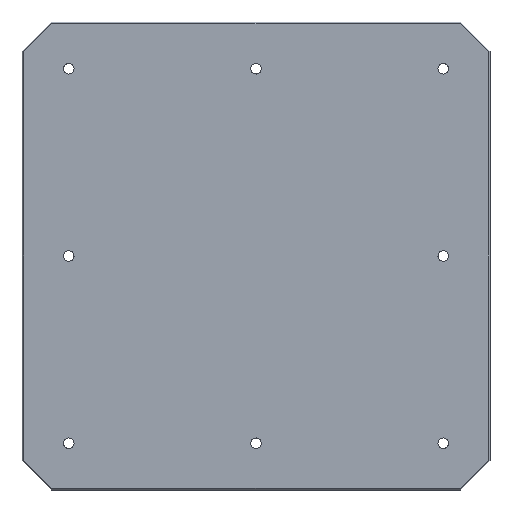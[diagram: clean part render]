
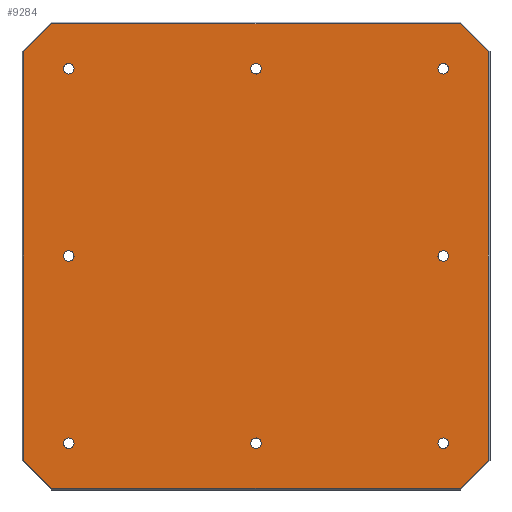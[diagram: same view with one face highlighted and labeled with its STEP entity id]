
A CAD part, front view. The second image highlights one B-rep face of the part: STEP entity #9284.
In plain terms, the highlighted planar face has unit normal (0, -1, 0).
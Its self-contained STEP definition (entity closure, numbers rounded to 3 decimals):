
#2153=CARTESIAN_POINT('',(0.,-30.,320.));
#2154=DIRECTION('',(0.,-1.,0.));
#2155=DIRECTION('',(-1.,0.,0.));
#2156=AXIS2_PLACEMENT_3D('',#2153,#2154,#2155);
#2158=CARTESIAN_POINT('',(0.,-30.,320.));
#2159=DIRECTION('',(0.,-1.,0.));
#2160=DIRECTION('',(1.,0.,0.));
#2161=AXIS2_PLACEMENT_3D('',#2158,#2159,#2160);
#2163=CARTESIAN_POINT('',(0.,-30.,-320.));
#2164=DIRECTION('',(0.,-1.,0.));
#2165=DIRECTION('',(-1.,0.,0.));
#2166=AXIS2_PLACEMENT_3D('',#2163,#2164,#2165);
#2168=CARTESIAN_POINT('',(0.,-30.,-320.));
#2169=DIRECTION('',(0.,-1.,0.));
#2170=DIRECTION('',(1.,0.,0.));
#2171=AXIS2_PLACEMENT_3D('',#2168,#2169,#2170);
#2173=CARTESIAN_POINT('',(-320.,-30.,320.));
#2174=DIRECTION('',(0.,-1.,0.));
#2175=DIRECTION('',(-1.,0.,0.));
#2176=AXIS2_PLACEMENT_3D('',#2173,#2174,#2175);
#2178=CARTESIAN_POINT('',(-320.,-30.,320.));
#2179=DIRECTION('',(0.,-1.,0.));
#2180=DIRECTION('',(1.,0.,0.));
#2181=AXIS2_PLACEMENT_3D('',#2178,#2179,#2180);
#2183=CARTESIAN_POINT('',(-320.,-30.,0.));
#2184=DIRECTION('',(0.,-1.,0.));
#2185=DIRECTION('',(-1.,0.,0.));
#2186=AXIS2_PLACEMENT_3D('',#2183,#2184,#2185);
#2188=CARTESIAN_POINT('',(-320.,-30.,0.));
#2189=DIRECTION('',(0.,-1.,0.));
#2190=DIRECTION('',(1.,0.,0.));
#2191=AXIS2_PLACEMENT_3D('',#2188,#2189,#2190);
#2193=CARTESIAN_POINT('',(-320.,-30.,-320.));
#2194=DIRECTION('',(0.,-1.,0.));
#2195=DIRECTION('',(-1.,0.,0.));
#2196=AXIS2_PLACEMENT_3D('',#2193,#2194,#2195);
#2198=CARTESIAN_POINT('',(-320.,-30.,-320.));
#2199=DIRECTION('',(0.,-1.,0.));
#2200=DIRECTION('',(1.,0.,0.));
#2201=AXIS2_PLACEMENT_3D('',#2198,#2199,#2200);
#2203=CARTESIAN_POINT('',(320.,-30.,320.));
#2204=DIRECTION('',(0.,1.,0.));
#2205=DIRECTION('',(1.,0.,0.));
#2206=AXIS2_PLACEMENT_3D('',#2203,#2204,#2205);
#2208=CARTESIAN_POINT('',(320.,-30.,320.));
#2209=DIRECTION('',(0.,1.,0.));
#2210=DIRECTION('',(-1.,0.,0.));
#2211=AXIS2_PLACEMENT_3D('',#2208,#2209,#2210);
#2213=CARTESIAN_POINT('',(320.,-30.,0.));
#2214=DIRECTION('',(0.,1.,0.));
#2215=DIRECTION('',(1.,0.,0.));
#2216=AXIS2_PLACEMENT_3D('',#2213,#2214,#2215);
#2218=CARTESIAN_POINT('',(320.,-30.,0.));
#2219=DIRECTION('',(0.,1.,0.));
#2220=DIRECTION('',(-1.,0.,0.));
#2221=AXIS2_PLACEMENT_3D('',#2218,#2219,#2220);
#2223=CARTESIAN_POINT('',(320.,-30.,-320.));
#2224=DIRECTION('',(0.,1.,0.));
#2225=DIRECTION('',(1.,0.,0.));
#2226=AXIS2_PLACEMENT_3D('',#2223,#2224,#2225);
#2228=CARTESIAN_POINT('',(320.,-30.,-320.));
#2229=DIRECTION('',(0.,1.,0.));
#2230=DIRECTION('',(-1.,0.,0.));
#2231=AXIS2_PLACEMENT_3D('',#2228,#2229,#2230);
#2233=DIRECTION('',(0.707,0.,-0.707));
#2234=VECTOR('',#2233,68.225);
#2235=CARTESIAN_POINT('',(-397.,-30.,-348.757));
#2236=LINE('',#2235,#2234);
#2237=DIRECTION('',(0.,0.,-1.));
#2238=VECTOR('',#2237,697.515);
#2239=CARTESIAN_POINT('',(-397.,-30.,348.757));
#2240=LINE('',#2239,#2238);
#2241=DIRECTION('',(-0.707,0.,-0.707));
#2242=VECTOR('',#2241,68.225);
#2243=CARTESIAN_POINT('',(-348.757,-30.,397.));
#2244=LINE('',#2243,#2242);
#2245=DIRECTION('',(-1.,0.,0.));
#2246=VECTOR('',#2245,697.515);
#2247=CARTESIAN_POINT('',(348.757,-30.,397.));
#2248=LINE('',#2247,#2246);
#2249=DIRECTION('',(-0.707,0.,0.707));
#2250=VECTOR('',#2249,68.225);
#2251=CARTESIAN_POINT('',(397.,-30.,348.757));
#2252=LINE('',#2251,#2250);
#2253=DIRECTION('',(0.,0.,1.));
#2254=VECTOR('',#2253,697.515);
#2255=CARTESIAN_POINT('',(397.,-30.,-348.757));
#2256=LINE('',#2255,#2254);
#2257=DIRECTION('',(0.707,0.,0.707));
#2258=VECTOR('',#2257,68.225);
#2259=CARTESIAN_POINT('',(348.757,-30.,-397.));
#2260=LINE('',#2259,#2258);
#2261=DIRECTION('',(1.,0.,0.));
#2262=VECTOR('',#2261,697.515);
#2263=CARTESIAN_POINT('',(-348.757,-30.,-397.));
#2264=LINE('',#2263,#2262);
#5749=CARTESIAN_POINT('',(329.,-30.,-320.));
#5750=CARTESIAN_POINT('',(311.,-30.,-320.));
#5751=VERTEX_POINT('',#5749);
#5752=VERTEX_POINT('',#5750);
#5797=CARTESIAN_POINT('',(329.,-30.,0.));
#5798=CARTESIAN_POINT('',(311.,-30.,0.));
#5799=VERTEX_POINT('',#5797);
#5800=VERTEX_POINT('',#5798);
#5845=CARTESIAN_POINT('',(329.,-30.,320.));
#5846=CARTESIAN_POINT('',(311.,-30.,320.));
#5847=VERTEX_POINT('',#5845);
#5848=VERTEX_POINT('',#5846);
#5893=CARTESIAN_POINT('',(-329.,-30.,-320.));
#5894=VERTEX_POINT('',#5893);
#5897=CARTESIAN_POINT('',(-311.,-30.,-320.));
#5898=VERTEX_POINT('',#5897);
#5909=CARTESIAN_POINT('',(-329.,-30.,0.));
#5910=VERTEX_POINT('',#5909);
#5913=CARTESIAN_POINT('',(-311.,-30.,0.));
#5914=VERTEX_POINT('',#5913);
#5925=CARTESIAN_POINT('',(-329.,-30.,320.));
#5926=VERTEX_POINT('',#5925);
#5929=CARTESIAN_POINT('',(-311.,-30.,320.));
#5930=VERTEX_POINT('',#5929);
#6045=CARTESIAN_POINT('',(-9.,-30.,-320.));
#6046=VERTEX_POINT('',#6045);
#6047=CARTESIAN_POINT('',(9.,-30.,-320.));
#6048=VERTEX_POINT('',#6047);
#6053=CARTESIAN_POINT('',(-9.,-30.,320.));
#6054=VERTEX_POINT('',#6053);
#6055=CARTESIAN_POINT('',(9.,-30.,320.));
#6056=VERTEX_POINT('',#6055);
#6259=CARTESIAN_POINT('',(-397.,-30.,-348.757));
#6260=CARTESIAN_POINT('',(-348.757,-30.,-397.));
#6261=VERTEX_POINT('',#6259);
#6262=VERTEX_POINT('',#6260);
#6269=CARTESIAN_POINT('',(348.757,-30.,-397.));
#6270=VERTEX_POINT('',#6269);
#6271=CARTESIAN_POINT('',(397.,-30.,-348.757));
#6272=VERTEX_POINT('',#6271);
#6277=CARTESIAN_POINT('',(397.,-30.,348.757));
#6278=VERTEX_POINT('',#6277);
#6279=CARTESIAN_POINT('',(348.757,-30.,397.));
#6280=VERTEX_POINT('',#6279);
#6285=CARTESIAN_POINT('',(-348.757,-30.,397.));
#6286=VERTEX_POINT('',#6285);
#6289=CARTESIAN_POINT('',(-397.,-30.,348.757));
#6290=VERTEX_POINT('',#6289);
#9214=CARTESIAN_POINT('',(0.,-30.,0.));
#9215=DIRECTION('',(0.,1.,0.));
#9216=DIRECTION('',(1.,0.,0.));
#9217=AXIS2_PLACEMENT_3D('',#9214,#9215,#9216);
#9218=PLANE('',#9217);
#9220=ORIENTED_EDGE('',*,*,#9219,.F.);
#9222=ORIENTED_EDGE('',*,*,#9221,.F.);
#9224=ORIENTED_EDGE('',*,*,#9223,.F.);
#9226=ORIENTED_EDGE('',*,*,#9225,.F.);
#9228=ORIENTED_EDGE('',*,*,#9227,.F.);
#9230=ORIENTED_EDGE('',*,*,#9229,.F.);
#9232=ORIENTED_EDGE('',*,*,#9231,.F.);
#9234=ORIENTED_EDGE('',*,*,#9233,.F.);
#9235=EDGE_LOOP('',(#9220,#9222,#9224,#9226,#9228,#9230,#9232,#9234));
#9236=FACE_OUTER_BOUND('',#9235,.F.);
#9238=ORIENTED_EDGE('',*,*,#9237,.T.);
#9240=ORIENTED_EDGE('',*,*,#9239,.T.);
#9241=EDGE_LOOP('',(#9238,#9240));
#9242=FACE_BOUND('',#9241,.F.);
#9244=ORIENTED_EDGE('',*,*,#9243,.T.);
#9246=ORIENTED_EDGE('',*,*,#9245,.T.);
#9247=EDGE_LOOP('',(#9244,#9246));
#9248=FACE_BOUND('',#9247,.F.);
#9250=ORIENTED_EDGE('',*,*,#9249,.T.);
#9252=ORIENTED_EDGE('',*,*,#9251,.T.);
#9253=EDGE_LOOP('',(#9250,#9252));
#9254=FACE_BOUND('',#9253,.F.);
#9256=ORIENTED_EDGE('',*,*,#9255,.T.);
#9258=ORIENTED_EDGE('',*,*,#9257,.T.);
#9259=EDGE_LOOP('',(#9256,#9258));
#9260=FACE_BOUND('',#9259,.F.);
#9262=ORIENTED_EDGE('',*,*,#9261,.F.);
#9263=ORIENTED_EDGE('',*,*,#9204,.F.);
#9264=EDGE_LOOP('',(#9262,#9263));
#9265=FACE_BOUND('',#9264,.F.);
#9267=ORIENTED_EDGE('',*,*,#9266,.F.);
#9269=ORIENTED_EDGE('',*,*,#9268,.F.);
#9270=EDGE_LOOP('',(#9267,#9269));
#9271=FACE_BOUND('',#9270,.F.);
#9273=ORIENTED_EDGE('',*,*,#9272,.F.);
#9275=ORIENTED_EDGE('',*,*,#9274,.F.);
#9276=EDGE_LOOP('',(#9273,#9275));
#9277=FACE_BOUND('',#9276,.F.);
#9279=ORIENTED_EDGE('',*,*,#9278,.T.);
#9281=ORIENTED_EDGE('',*,*,#9280,.T.);
#9282=EDGE_LOOP('',(#9279,#9281));
#9283=FACE_BOUND('',#9282,.F.);
#9284=ADVANCED_FACE('',(#9236,#9242,#9248,#9254,#9260,#9265,#9271,#9277,#9283),
#9218,.F.);
#2157=CIRCLE('',#2156,9.);
#2162=CIRCLE('',#2161,9.);
#2167=CIRCLE('',#2166,9.);
#2172=CIRCLE('',#2171,9.);
#2177=CIRCLE('',#2176,9.);
#2182=CIRCLE('',#2181,9.);
#2187=CIRCLE('',#2186,9.);
#2192=CIRCLE('',#2191,9.);
#2197=CIRCLE('',#2196,9.);
#2202=CIRCLE('',#2201,9.);
#2207=CIRCLE('',#2206,9.);
#2212=CIRCLE('',#2211,9.);
#2217=CIRCLE('',#2216,9.);
#2222=CIRCLE('',#2221,9.);
#2227=CIRCLE('',#2226,9.);
#2232=CIRCLE('',#2231,9.);
#9204=EDGE_CURVE('',#5848,#5847,#2212,.T.);
#9219=EDGE_CURVE('',#6261,#6262,#2236,.T.);
#9221=EDGE_CURVE('',#6290,#6261,#2240,.T.);
#9223=EDGE_CURVE('',#6286,#6290,#2244,.T.);
#9225=EDGE_CURVE('',#6280,#6286,#2248,.T.);
#9227=EDGE_CURVE('',#6278,#6280,#2252,.T.);
#9229=EDGE_CURVE('',#6272,#6278,#2256,.T.);
#9231=EDGE_CURVE('',#6270,#6272,#2260,.T.);
#9233=EDGE_CURVE('',#6262,#6270,#2264,.T.);
#9237=EDGE_CURVE('',#6046,#6048,#2167,.T.);
#9239=EDGE_CURVE('',#6048,#6046,#2172,.T.);
#9243=EDGE_CURVE('',#5926,#5930,#2177,.T.);
#9245=EDGE_CURVE('',#5930,#5926,#2182,.T.);
#9249=EDGE_CURVE('',#5910,#5914,#2187,.T.);
#9251=EDGE_CURVE('',#5914,#5910,#2192,.T.);
#9255=EDGE_CURVE('',#5894,#5898,#2197,.T.);
#9257=EDGE_CURVE('',#5898,#5894,#2202,.T.);
#9261=EDGE_CURVE('',#5847,#5848,#2207,.T.);
#9266=EDGE_CURVE('',#5799,#5800,#2217,.T.);
#9268=EDGE_CURVE('',#5800,#5799,#2222,.T.);
#9272=EDGE_CURVE('',#5751,#5752,#2227,.T.);
#9274=EDGE_CURVE('',#5752,#5751,#2232,.T.);
#9278=EDGE_CURVE('',#6054,#6056,#2157,.T.);
#9280=EDGE_CURVE('',#6056,#6054,#2162,.T.);
